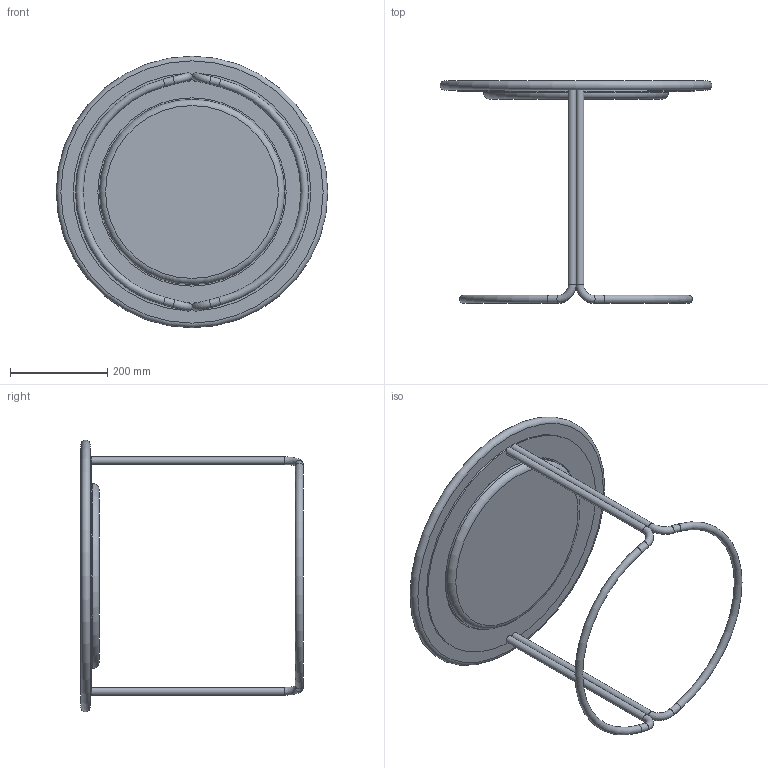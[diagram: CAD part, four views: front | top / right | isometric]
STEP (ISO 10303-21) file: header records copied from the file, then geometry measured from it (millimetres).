
FILE_DESCRIPTION(/* description */ (''),/* implementation_level */ '2;1');
FILE_NAME(/* name */ '1070.stp',/* time_stamp */ '2025-09-26T14:31:16-04:00',/* author */ ('abieber'),/* organization */ (''),/* preprocessor_version */ 'ST-DEVELOPER v20',/* originating_system */ 'Autodesk Inventor 2025',/* authorisation */ '');
FILE_SCHEMA (('AUTOMOTIVE_DESIGN { 1 0 10303 214 3 1 1 }'));
Length unit declared in the file: inch
Products named in the file (8): 1071; 1071-TOP - PROTOTYPE; 1071-SUBTOP - PROTOTYPE; BA1071; BA1071-003; BA1071-005 ; BA1071-004 ; BA1071-001 
Assembly tree (9 placements, depth 4):
  1071
    1071-TOP - PROTOTYPE
    1071-SUBTOP - PROTOTYPE
    BA1071
      BA1071-003  x2
        BA1071-005 
        BA1071-004 
      BA1071-001 
Bounding box: 558.8 x 457.2 x 558.8 mm (x, y, z)
Volume: 7476773.8 mm3; surface area: 1056516.9 mm2
Topology: 9 solids, 9 shells, 46 faces, 84 edges, 56 vertices
Faces by surface type: plane 22, cylinder 16, torus 8
Full cylindrical faces by diameter (mm): 15.875 x8, 381 x1, 387.35 x1
Entity records: 1048 total; most frequent: DIRECTION 176, CARTESIAN_POINT 135, ORIENTED_EDGE 108, AXIS2_PLACEMENT_3D 77, EDGE_CURVE 54, VERTEX_POINT 36, CIRCLE 32, EDGE_LOOP 30
